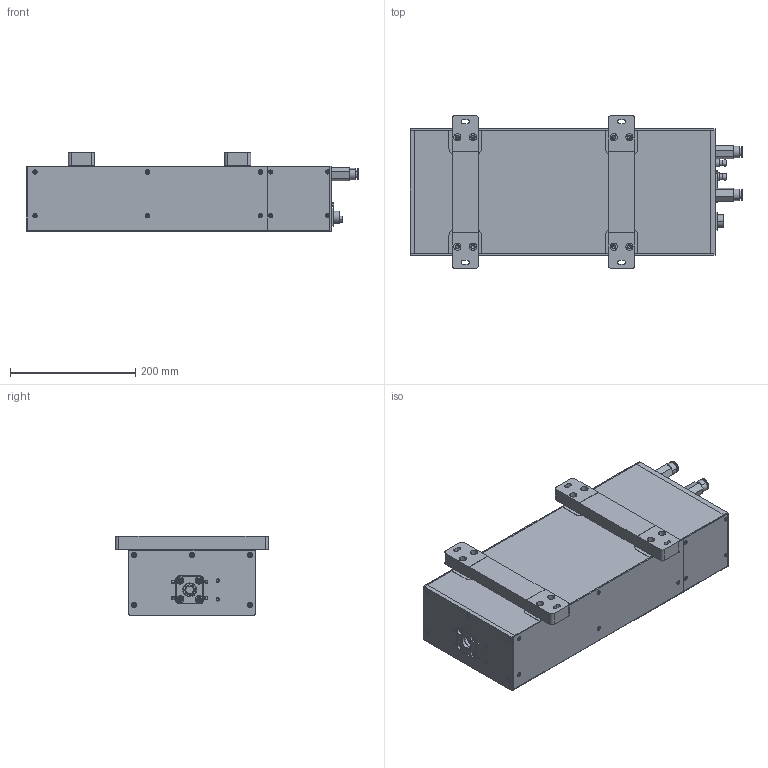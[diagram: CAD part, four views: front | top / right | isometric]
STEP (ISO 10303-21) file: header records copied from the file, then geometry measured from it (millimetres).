
FILE_DESCRIPTION (( 'STEP AP203' ), '1' );
FILE_NAME ('30W蟯嫖-俋倛芞A.STEP', '2026-07-09T09:33:36', ( '' ), ( '' ), 'SwSTEP 2.0', 'SolidWorks 2016', '' );
FILE_SCHEMA (( 'CONFIG_CONTROL_DESIGN' ));
Products named in the file (1): 30W蟯嫖-俋倛芞A
Bounding box: 530.63 x 245 x 127 mm (x, y, z)
Volume: 9650757.5 mm3; surface area: 1103564.4 mm2
Topology: 78 solids, 109 shells, 4063 faces, 9810 edges, 6181 vertices
Faces by surface type: plane 1642, cylinder 1408, cone 515, bspline 466, torus 20, sphere 12
Entity records: 138562 total; most frequent: CARTESIAN_POINT 44560, ORIENTED_EDGE 19228, DIRECTION 19161, EDGE_CURVE 9614, AXIS2_PLACEMENT_3D 6870, VERTEX_POINT 6173, VECTOR 5421, LINE 5421
